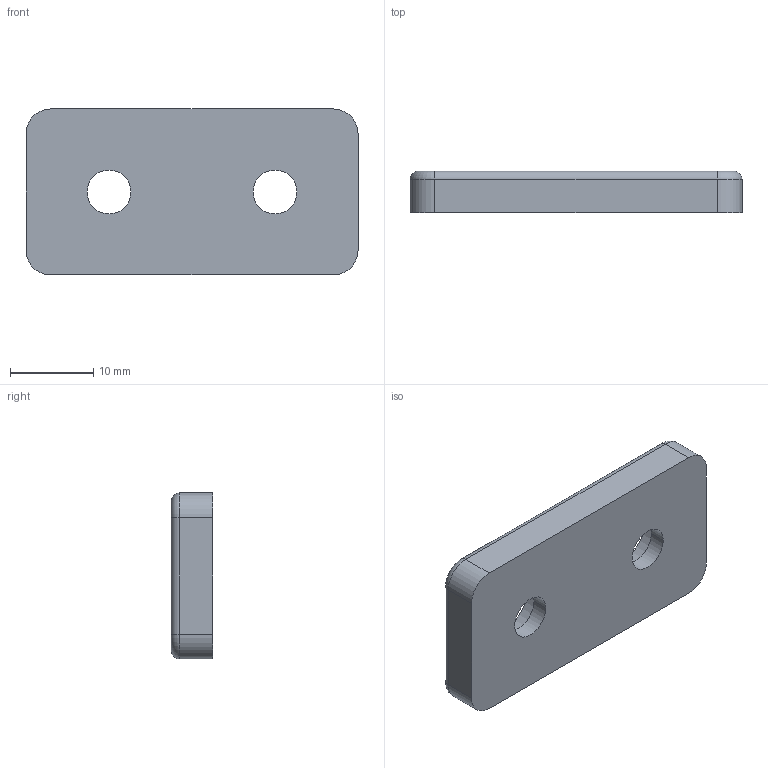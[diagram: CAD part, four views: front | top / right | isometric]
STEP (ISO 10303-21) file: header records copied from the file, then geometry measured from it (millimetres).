
FILE_DESCRIPTION((''),'2;1');
FILE_NAME('0000208622','2024-02-19T15:34:45',('Wyndorps'),(''),'CREO PARAMETRIC BY PTC INC, 2022484','CREO PARAMETRIC BY PTC INC, 2022484','');
FILE_SCHEMA(('CONFIG_CONTROL_DESIGN'));
Length unit declared in the file: millimetre
Products named in the file (1): 0000208622
Bounding box: 40 x 5 x 20 mm (x, y, z)
Volume: 3400.8 mm3; surface area: 2271.2 mm2
Topology: 1 solids, 1 shells, 28 faces, 64 edges, 40 vertices
Faces by surface type: cylinder 16, plane 8, torus 4
Entity records: 846 total; most frequent: DIRECTION 156, CARTESIAN_POINT 132, ORIENTED_EDGE 128, AXIS2_PLACEMENT_3D 64, EDGE_CURVE 64, VERTEX_POINT 40, CIRCLE 36, EDGE_LOOP 34
